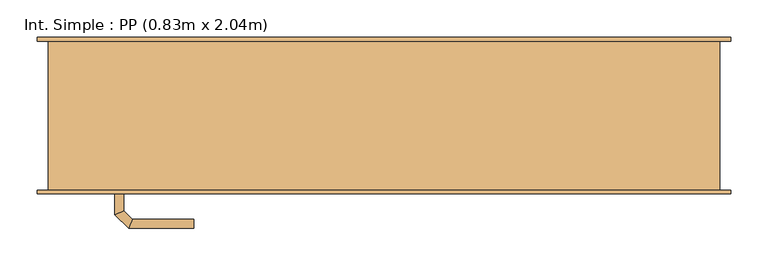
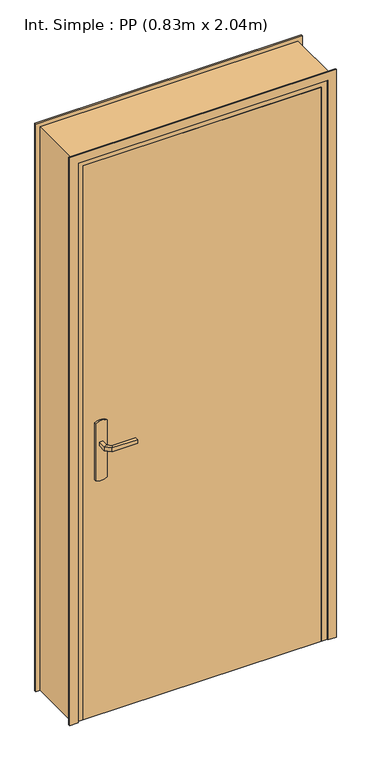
"""IFC4 building model written with IfcOpenShell, lengths in millimetres: door geometry, Int. Simple : PP (0.83m x 2.04m)."""

from ifc_helpers import new_model, si_unit, point, frame, frame_2d, origin, origin_with_axes, place, context, project, spatial, polyline, circle_curve, ellipse_curve, trimmed, segment, composite_curve, outline, extrude, faceted_brep, source, transform, mapped, element, save
from ifc_brep_helpers import plane_surface, cylinder_surface, advanced_brep


def int_simple_pp_0_83m_x_2_04m_462b1650(model_context):
    return source(origin(), model_context, "Body", "SolidModel", [
        extrude(outline(composite_curve([segment(trimmed(circle_curve(frame_2d((904.6410162, -390.0)), 40.0), [point((870.0, -410.0))], [point((870.0, -370.0))], False, "CARTESIAN"), True, "CONTINUOUS"), segment(polyline([(870.0, -370.0), (1080.0, -370.0)]), True, "CONTINUOUS"), segment(trimmed(circle_curve(frame_2d((1045.3589838, -390.0)), 40.0), [point((1080.0, -370.0))], [point((1080.0, -410.0))], False, "CARTESIAN"), True, "CONTINUOUS"), segment(polyline([(1080.0, -410.0), (870.0, -410.0)]), True, "CONTINUOUS")], self_intersect=False)), frame((0.0, -105.0, 0.0), z_axis=(0.0, 1.0, 0.0), x_axis=(0.0, 0.0, 1.0)), (0.0, 0.0, 1.0), 5.0),
        extrude(outline(composite_curve([segment(trimmed(circle_curve(frame_2d((1045.3589838, -390.0)), 40.0), [point((1080.0, -370.0))], [point((1080.0, -410.0))], False, "CARTESIAN"), True, "CONTINUOUS"), segment(polyline([(1080.0, -410.0), (870.0, -410.0)]), True, "CONTINUOUS"), segment(trimmed(circle_curve(frame_2d((904.6410162, -390.0)), 40.0), [point((870.0, -410.0))], [point((870.0, -370.0))], False, "CARTESIAN"), True, "CONTINUOUS"), segment(polyline([(870.0, -370.0), (1080.0, -370.0)]), True, "CONTINUOUS")], self_intersect=False)), frame((0.0, -60.0, 0.0), z_axis=(0.0, 1.0, 0.0), x_axis=(0.0, 0.0, 1.0)), (0.0, 0.0, 1.0), 5.0),
        advanced_brep(
        [(-396.0, -105.0, 1007.0), (-384.0, -105.0, 1007.0), (-384.0, -105.0, 993.0), (-396.0, -105.0, 993.0), (-396.0, -132.6509507, 1007.0), (-384.0, -127.680388, 1007.0), (-384.0, -127.680388, 993.0), (-396.0, -132.6509507, 993.0), (-377.62279, -151.0281607, 1007.0), (-372.6522273, -139.0281607, 1007.0), (-372.6522273, -139.0281607, 993.0), (-377.62279, -151.0281607, 993.0), (-289.9813594, -151.0281607, 1007.0), (-289.9813594, -151.0281607, 993.0), (-289.9813594, -139.0281607, 993.0), (-289.9813594, -139.0281607, 1007.0)],
        [
            (0, 1, circle_curve(frame((-390.0, -105.0, 986.9542278), z_axis=(0.0, 1.0, 0.0), x_axis=(1.0, 0.0, 0.0)), 20.9244589)),
            (1, 2),
            (2, 3, circle_curve(frame((-390.0, -105.0, 1013.0457722), z_axis=(0.0, 1.0, 0.0), x_axis=(1.0, 0.0, 0.0)), 20.9244589)),
            (3, 0),
            (0, 4),
            (4, 5, ellipse_curve(frame((-390.0, -130.1656693, 986.9542278), z_axis=(-0.3826834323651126, 0.9238795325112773, 0.0), x_axis=(0.9238795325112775, 0.38268343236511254, 0.0)), 22.6484711, 20.9244589)),
            (5, 1),
            (5, 6),
            (6, 2),
            (6, 7, ellipse_curve(frame((-390.0, -130.1656693, 1013.0457722), z_axis=(-0.3826834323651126, 0.9238795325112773, 0.0), x_axis=(0.9238795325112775, 0.38268343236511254, 0.0)), 22.6484711, 20.9244589)),
            (7, 3),
            (7, 4),
            (4, 8),
            (8, 9, ellipse_curve(frame((-375.1375086, -145.0281607, 986.9542278), z_axis=(-0.9238795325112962, 0.38268343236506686, 0.0), x_axis=(0.3826834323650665, 0.9238795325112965, 0.0)), 22.6484711, 20.9244589)),
            (9, 5),
            (9, 10),
            (10, 6),
            (10, 11, ellipse_curve(frame((-375.1375086, -145.0281607, 1013.0457722), z_axis=(-0.9238795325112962, 0.38268343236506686, 0.0), x_axis=(0.3826834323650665, 0.9238795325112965, 0.0)), 22.6484711, 20.9244589)),
            (11, 7),
            (11, 8),
            (12, 13),
            (13, 14, circle_curve(frame((-289.9813594, -145.0281607, 1013.0457722), z_axis=(1.0, 0.0, 0.0), x_axis=(0.0, 1.0, 0.0)), 20.9244589)),
            (14, 15),
            (15, 12, circle_curve(frame((-289.9813594, -145.0281607, 986.9542278), z_axis=(1.0, 0.0, 0.0), x_axis=(0.0, 1.0, 0.0)), 20.9244589)),
            (8, 12),
            (15, 9),
            (14, 10),
            (13, 11),
        ],
        [
            plane_surface(frame((-399.2195445, -105.0, 1000.0), z_axis=(0.0, 1.0, 0.0), x_axis=(0.0, 0.0, -1.0))),
            cylinder_surface(frame((-390.0, -105.0, 986.9542278), z_axis=(0.0, 1.0, 0.0), x_axis=(1.0, 0.0, 0.0)), 20.9244589),
            plane_surface(frame((-384.0, -105.0, 1007.0), z_axis=(1.0, 0.0, 0.0), x_axis=(0.0, -1.0, 0.0))),
            cylinder_surface(frame((-390.0, -105.0, 1013.0457722), z_axis=(0.0, 1.0, 0.0), x_axis=(1.0, 0.0, 0.0)), 20.9244589),
            plane_surface(frame((-396.0, -105.0, 993.0), z_axis=(-1.0, 0.0, 0.0), x_axis=(0.0, -1.0, 0.0))),
            cylinder_surface(frame((-390.0, -130.1656693, 986.9542278), z_axis=(-0.7071067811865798, 0.7071067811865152, 0.0), x_axis=(0.7071067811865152, 0.7071067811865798, 0.0)), 20.9244589),
            plane_surface(frame((-384.0, -127.680388, 1007.0), z_axis=(0.7071067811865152, 0.7071067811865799, 0.0), x_axis=(0.7071067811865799, -0.7071067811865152, 0.0))),
            cylinder_surface(frame((-390.0, -130.1656693, 1013.0457722), z_axis=(-0.7071067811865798, 0.7071067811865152, 0.0), x_axis=(0.7071067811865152, 0.7071067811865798, 0.0)), 20.9244589),
            plane_surface(frame((-396.0, -132.6509507, 993.0), z_axis=(-0.7071067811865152, -0.7071067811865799, 0.0), x_axis=(0.7071067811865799, -0.7071067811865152, 0.0))),
            plane_surface(frame((-289.9813594, -145.0281607, 990.7804555), z_axis=(1.0, 0.0, 0.0), x_axis=(0.0, 1.0, 0.0))),
            cylinder_surface(frame((-375.1375086, -145.0281607, 986.9542278), z_axis=(-1.0, 0.0, 0.0), x_axis=(0.0, 1.0, 0.0)), 20.9244589),
            plane_surface(frame((-372.6522273, -139.0281607, 1007.0), z_axis=(0.0, 1.0, 0.0), x_axis=(1.0, 0.0, 0.0))),
            cylinder_surface(frame((-375.1375086, -145.0281607, 1013.0457722), z_axis=(-1.0, 0.0, 0.0), x_axis=(0.0, 1.0, 0.0)), 20.9244589),
            plane_surface(frame((-377.62279, -151.0281607, 993.0), z_axis=(0.0, -1.0, 0.0), x_axis=(1.0, 0.0, 0.0))),
        ],
        [
            (0, [[1, 2, 3, 4]]),
            (1, [[-1, 5, 6, 7]]),
            (2, [[-2, -7, 8, 9]]),
            (3, [[-3, -9, 10, 11]]),
            (4, [[-4, -11, 12, -5]]),
            (5, [[-6, 13, 14, 15]]),
            (6, [[-8, -15, 16, 17]]),
            (7, [[-10, -17, 18, 19]]),
            (8, [[-12, -19, 20, -13]]),
            (9, [[21, 22, 23, 24]]),
            (10, [[-14, 25, -24, 26]]),
            (11, [[-16, -26, -23, 27]]),
            (12, [[-18, -27, -22, 28]]),
            (13, [[-20, -28, -21, -25]]),
        ],
    ),
        advanced_brep(
        [(-384.0, -55.0, 993.0), (-384.0, -55.0, 1007.0), (-396.0, -55.0, 1007.0), (-396.0, -55.0, 993.0), (-384.0, -32.5147955, 993.0), (-384.0, -32.5147955, 1007.0), (-396.0, -27.5442327, 1007.0), (-396.0, -27.5442327, 993.0), (-372.5147186, -21.0295141, 993.0), (-372.5147186, -21.0295141, 1007.0), (-377.4852814, -9.0295141, 1007.0), (-377.4852814, -9.0295141, 993.0), (-289.9542163, -21.0295141, 993.0), (-289.9542163, -9.0295141, 993.0), (-289.9542163, -9.0295141, 1007.0), (-289.9542163, -21.0295141, 1007.0)],
        [
            (0, 1),
            (1, 2, circle_curve(frame((-390.0, -55.0, 986.9542278), z_axis=(0.0, -1.0, 0.0), x_axis=(-1.0, 0.0, 0.0)), 20.9244589)),
            (2, 3),
            (3, 0, circle_curve(frame((-390.0, -55.0, 1013.0457722), z_axis=(0.0, -1.0, 0.0), x_axis=(-1.0, 0.0, 0.0)), 20.9244589)),
            (0, 4),
            (4, 5),
            (5, 1),
            (5, 6, ellipse_curve(frame((-390.0, -30.0295141, 986.9542278), z_axis=(-0.3826834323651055, -0.9238795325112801, 0.0), x_axis=(0.9238795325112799, -0.3826834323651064, 0.0)), 22.6484711, 20.9244589)),
            (6, 2),
            (6, 7),
            (7, 3),
            (7, 4, ellipse_curve(frame((-390.0, -30.0295141, 1013.0457722), z_axis=(-0.3826834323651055, -0.9238795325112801, 0.0), x_axis=(0.9238795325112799, -0.3826834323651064, 0.0)), 22.6484711, 20.9244589)),
            (4, 8),
            (8, 9),
            (9, 5),
            (9, 10, ellipse_curve(frame((-375.0, -15.0295141, 986.9542278), z_axis=(-0.9238795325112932, -0.382683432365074, 0.0), x_axis=(0.3826834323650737, -0.9238795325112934, 0.0)), 22.6484711, 20.9244589)),
            (10, 6),
            (10, 11),
            (11, 7),
            (11, 8, ellipse_curve(frame((-375.0, -15.0295141, 1013.0457722), z_axis=(-0.9238795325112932, -0.382683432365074, 0.0), x_axis=(0.3826834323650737, -0.9238795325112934, 0.0)), 22.6484711, 20.9244589)),
            (12, 13, circle_curve(frame((-289.9542163, -15.0295141, 1013.0457722), z_axis=(1.0, 0.0, 0.0), x_axis=(0.0, 1.0, 0.0)), 20.9244589)),
            (13, 14),
            (14, 15, circle_curve(frame((-289.9542163, -15.0295141, 986.9542278), z_axis=(1.0, 0.0, 0.0), x_axis=(0.0, 1.0, 0.0)), 20.9244589)),
            (15, 12),
            (8, 12),
            (15, 9),
            (14, 10),
            (13, 11),
        ],
        [
            plane_surface(frame((-399.2195445, -55.0, 1000.0), z_axis=(0.0, -1.0, 0.0), x_axis=(0.0, 0.0, 1.0))),
            plane_surface(frame((-384.0, -55.0, 993.0), z_axis=(1.0, 0.0, 0.0), x_axis=(0.0, 1.0, 0.0))),
            cylinder_surface(frame((-390.0, -55.0, 986.9542278), z_axis=(0.0, -1.0, 0.0), x_axis=(-1.0, 0.0, 0.0)), 20.9244589),
            plane_surface(frame((-396.0, -55.0, 1007.0), z_axis=(-1.0, 0.0, 0.0), x_axis=(0.0, 1.0, 0.0))),
            cylinder_surface(frame((-390.0, -55.0, 1013.0457722), z_axis=(0.0, -1.0, 0.0), x_axis=(-1.0, 0.0, 0.0)), 20.9244589),
            plane_surface(frame((-384.0, -32.5147955, 993.0), z_axis=(0.7071067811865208, -0.7071067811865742, 0.0), x_axis=(0.7071067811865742, 0.7071067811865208, 0.0))),
            cylinder_surface(frame((-390.0, -30.0295141, 986.9542278), z_axis=(-0.7071067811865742, -0.7071067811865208, 0.0), x_axis=(-0.7071067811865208, 0.7071067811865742, 0.0)), 20.9244589),
            plane_surface(frame((-396.0, -27.5442327, 1007.0), z_axis=(-0.7071067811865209, 0.7071067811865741, 0.0), x_axis=(0.7071067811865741, 0.7071067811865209, 0.0))),
            cylinder_surface(frame((-390.0, -30.0295141, 1013.0457722), z_axis=(-0.7071067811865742, -0.7071067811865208, 0.0), x_axis=(-0.7071067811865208, 0.7071067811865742, 0.0)), 20.9244589),
            plane_surface(frame((-289.9542163, -15.0295141, 990.7804555), z_axis=(1.0, 0.0, 0.0), x_axis=(0.0, 1.0, 0.0))),
            plane_surface(frame((-372.5147186, -21.0295141, 993.0), z_axis=(0.0, -1.0, 0.0), x_axis=(1.0, 0.0, 0.0))),
            cylinder_surface(frame((-375.0, -15.0295141, 986.9542278), z_axis=(-1.0, 0.0, 0.0), x_axis=(0.0, 1.0, 0.0)), 20.9244589),
            plane_surface(frame((-377.4852814, -9.0295141, 1007.0), z_axis=(0.0, 1.0, 0.0), x_axis=(1.0, 0.0, 0.0))),
            cylinder_surface(frame((-375.0, -15.0295141, 1013.0457722), z_axis=(-1.0, 0.0, 0.0), x_axis=(0.0, 1.0, 0.0)), 20.9244589),
        ],
        [
            (0, [[1, 2, 3, 4]]),
            (1, [[-1, 5, 6, 7]]),
            (2, [[-2, -7, 8, 9]]),
            (3, [[-3, -9, 10, 11]]),
            (4, [[-4, -11, 12, -5]]),
            (5, [[-6, 13, 14, 15]]),
            (6, [[-8, -15, 16, 17]]),
            (7, [[-10, -17, 18, 19]]),
            (8, [[-12, -19, 20, -13]]),
            (9, [[21, 22, 23, 24]]),
            (10, [[-14, 25, -24, 26]]),
            (11, [[-16, -26, -23, 27]]),
            (12, [[-18, -27, -22, 28]]),
            (13, [[-20, -28, -21, -25]]),
        ],
    ),
        extrude(outline(polyline([(-450.0, -60.0), (380.0, -60.0), (380.0, -100.0), (-450.0, -100.0), (-450.0, -60.0)])), origin_with_axes(), (0.0, 0.0, 1.0), 2040.0),
        faceted_brep([(-485.0, -100.0, 0.0), (-485.0, 100.0, 0.0), (-435.0, 100.0, 0.0), (-435.0, -60.0, 0.0), (-450.0, -60.0, 0.0), (-450.0, -100.0, 0.0), (-485.0, -100.0, 2075.0), (-485.0, 100.0, 2075.0), (415.0, 100.0, 2075.0), (415.0, 100.0, 0.0), (365.0, 100.0, 0.0), (365.0, 100.0, 2025.0), (-435.0, 100.0, 2025.0), (-435.0, -60.0, 2025.0), (365.0, -60.0, 2025.0), (365.0, -60.0, 0.0), (380.0, -60.0, 0.0), (380.0, -60.0, 2040.0), (-450.0, -60.0, 2040.0), (-450.0, -100.0, 2040.0), (380.0, -100.0, 2040.0), (380.0, -100.0, 0.0), (415.0, -100.0, 0.0), (415.0, -100.0, 2075.0)], [[[0, 1, 2, 3, 4, 5]], [[1, 0, 6, 7]], [[2, 1, 7, 8, 9, 10, 11, 12]], [[3, 2, 12, 13]], [[4, 3, 13, 14, 15, 16, 17, 18]], [[5, 4, 18, 19]], [[0, 5, 19, 20, 21, 22, 23, 6]], [[8, 23, 22, 9]], [[22, 21, 16, 15, 10, 9]], [[14, 11, 10, 15]], [[20, 17, 16, 21]], [[7, 6, 23, 8]], [[13, 12, 11, 14]], [[19, 18, 17, 20]]]),
        extrude(outline(polyline([(0.0, -500.0), (0.0, -470.0), (2060.0, -470.0), (2060.0, 400.0), (0.0, 400.0), (0.0, 430.0), (2090.0, 430.0), (2090.0, -500.0), (0.0, -500.0)])), frame((0.0, -105.0, 0.0), z_axis=(0.0, 1.0, 0.0), x_axis=(0.0, 0.0, 1.0)), (0.0, 0.0, 1.0), 5.0),
        extrude(outline(polyline([(0.0, -500.0), (0.0, -470.0), (2060.0, -470.0), (2060.0, 400.0), (0.0, 400.0), (0.0, 430.0), (2090.0, 430.0), (2090.0, -500.0), (0.0, -500.0)])), frame((0.0, 100.0, 0.0), z_axis=(0.0, 1.0, 0.0), x_axis=(0.0, 0.0, 1.0)), (0.0, 0.0, 1.0), 5.0),
    ])


if __name__ == "__main__":
    model = new_model("IFC4")
    model_context = context("Model", 3, world=origin())
    ifc_project = project(units=[si_unit("LENGTHUNIT", "METRE", prefix="MILLI")], contexts=[model_context])
    site = spatial("IfcSite", under=ifc_project)
    building = spatial("IfcBuilding", under=site)
    placement = place(None, origin())
    int_simple_pp_0_83m_x_2_04m_shape = int_simple_pp_0_83m_x_2_04m_462b1650(model_context)
    element("IfcDoor", 1, ObjectType="Int. Simple : PP (0.83m x 2.04m)", at=placement, inside=building, context=model_context, shape_type="MappedRepresentation", body=[
        mapped(int_simple_pp_0_83m_x_2_04m_shape, transform((0.0, 0.0, 0.0), x_axis=(1.0, 0.0, 0.0), y_axis=(0.0, 1.0, 0.0), z_axis=(0.0, 0.0, 1.0))),
    ])
    save(model, "model.ifc")
